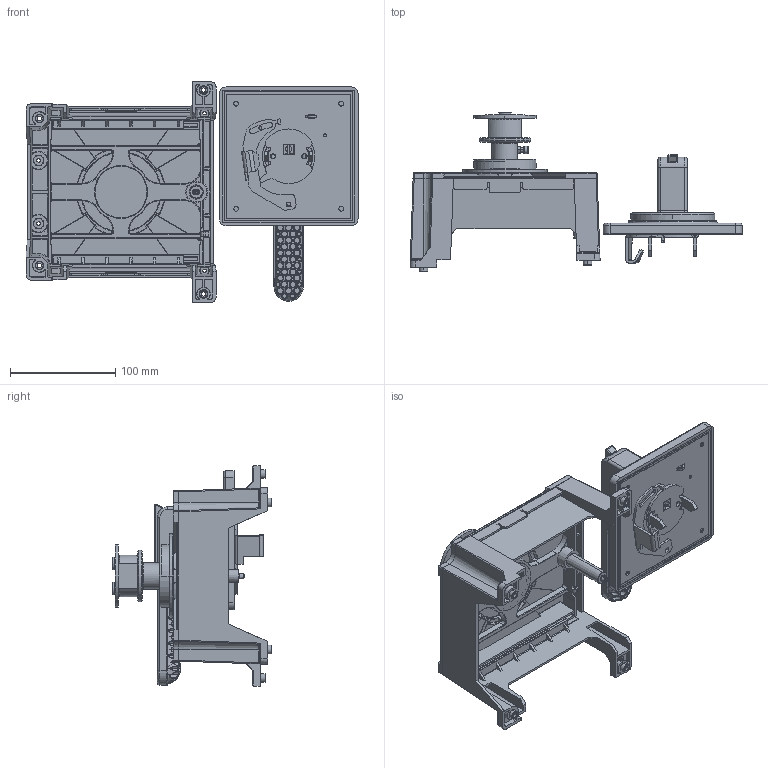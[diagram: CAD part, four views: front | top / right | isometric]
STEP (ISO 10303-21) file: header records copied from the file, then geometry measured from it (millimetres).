
FILE_DESCRIPTION(/* description */ (''),/* implementation_level */ '2;1');
FILE_NAME(/* name */ 'TFG80GP_3D DATA.stp',/* time_stamp */ '2018-06-05T10:02:41+09:00',/* author */ (''),/* organization */ (''),/* preprocessor_version */ 'ST-DEVELOPER v15',/* originating_system */ 'SIEMENS PLM Software NX 9.0',/* authorisation */ '');
FILE_SCHEMA (('AP203_CONFIGURATION_CONTROLLED_3D_DESIGN_OF_MECHANICAL_PARTS_AND_ASSEMBLIES_MIM_LF { 1 0 10303 403 2 1 2}'));
Products named in the file (21): U8_HM_HANDLE_EX_INSERT_COVER191844; U8_HM_FRAME; U8_HM_FRAME_COVER; U8_HM_ROLL_B_RING67528; U8_HM_TRIP_BUTTON; M4_HEX_NUT118563; M4_L12_HEX_SOCKET_BOLT119308; U8_HM_ROLL_A_RING121693; U8_HM_ON_OFF_D_LEVER123675; U8_HM_STOP_BOLT124461; U8_HM_HANDLE178596; U8_HM_COVER_PLATE270859; U8_HM_ON_OFF_U_LEVER272909; U8_HM_DOOR_LOCK_PLATE278309; U8_HM_SEALING278768; U8_HM_KEY_LOCK_CAP284745; U8_HM_ON_OFF_LABEL295805; U8_HM_TFG_FRAME_ASSY_ASM; U8_HM_HANDLE_COVER_ASM191853; U8_HM_HANDLE_ASSY_ASM178606; u8_tfg_80gp_u3_asm_stp
Assembly tree (21 placements, depth 4):
  u8_tfg_80gp_u3_asm_stp
    U8_HM_HANDLE_ASSY_ASM178606
      U8_HM_ON_OFF_LABEL295805
      U8_HM_KEY_LOCK_CAP284745
      U8_HM_SEALING278768
      U8_HM_DOOR_LOCK_PLATE278309
      U8_HM_ON_OFF_U_LEVER272909
      U8_HM_COVER_PLATE270859
      U8_HM_HANDLE_COVER_ASM191853
        U8_HM_HANDLE_EX_INSERT_COVER191844
      U8_HM_HANDLE178596
    U8_HM_TFG_FRAME_ASSY_ASM
      U8_HM_STOP_BOLT124461  x2
      U8_HM_ON_OFF_D_LEVER123675
      U8_HM_ROLL_A_RING121693
      M4_L12_HEX_SOCKET_BOLT119308
      M4_HEX_NUT118563
      U8_HM_TRIP_BUTTON
      U8_HM_ROLL_B_RING67528
      U8_HM_FRAME_COVER
      U8_HM_FRAME
Bounding box: 316 x 152 x 210 mm (x, y, z)
Volume: 618222.7 mm3; surface area: 454765.4 mm2
Topology: 18 solids, 18 shells, 4099 faces, 10091 edges, 6190 vertices
Faces by surface type: plane 1352, cylinder 1265, bspline 486, torus 432, cone 239, sphere 204, extrusion 121
Full cylindrical faces by diameter (mm): 49.5 x1
Entity records: 165309 total; most frequent: CARTESIAN_POINT 69614, ORIENTED_EDGE 20052, DIRECTION 18974, EDGE_CURVE 10026, AXIS2_PLACEMENT_3D 7135, VERTEX_POINT 6150, VECTOR 4704, LINE 4583
